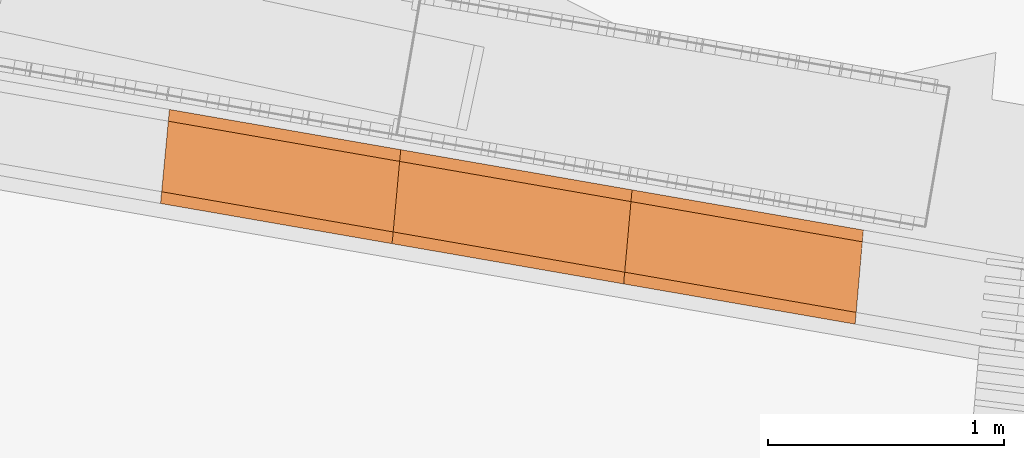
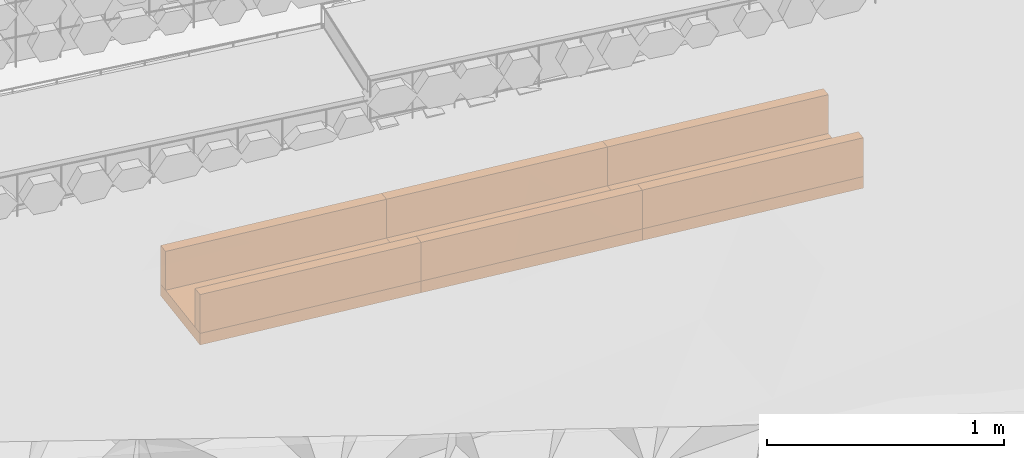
# Not in any storey, part 44 of 45: 9 proxies.
"""IFC4 model written with IfcOpenShell, lengths in metres."""

from ifc_helpers import new_model, si_unit, direction, frame, origin_with_axes, place, context, subcontext, project, spatial, polygons, material, element, save


model = new_model("IFC4")

# Units and contexts
model_context = context("Model", 3, precision=1e-05, world=origin_with_axes(), true_north=direction((0.0, 1.0)))
body_context = subcontext(model_context, "Body", "Model", "MODEL_VIEW")
ifc_project = project(units=[si_unit("VOLUMEUNIT", "CUBIC_METRE"), si_unit("LENGTHUNIT", "METRE"), si_unit("AREAUNIT", "SQUARE_METRE")], contexts=[model_context])

# Site
site_placement = place(None, origin_with_axes())
site = spatial("IfcSite", under=ifc_project, at=site_placement, Name="Lares · Rua das Mercês · artigo 4771")

# Proxies
ifc_material = material(Name="Caleiras · betão", Category="concrete")
proxy_1_placement = place(site_placement, frame((0.0, 0.0, 0.0), z_axis=(0.0, 0.0, 1.0), x_axis=(1.0, -1.03767253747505e-17, 0.0)))
element("IfcBuildingElementProxy", 1, at=proxy_1_placement, inside=site, material=ifc_material, Name="Acesso · canal lateral", ObjectType="Acesso · canal lateral", PredefinedType="USERDEFINED", context=body_context, shape_type="Tessellation", body=[
    polygons([(79.2974734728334, 6.31582085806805, 15.7690898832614), (79.3349189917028, 6.71406429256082, 15.7690898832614), (80.3149523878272, 6.5437610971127, 15.7986969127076), (80.2775068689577, 6.14551766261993, 15.7986969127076), (79.2974734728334, 6.31582085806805, 15.8290898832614), (79.3349189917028, 6.71406429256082, 15.8290898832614), (80.3149523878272, 6.5437610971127, 15.8586969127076), (80.2775068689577, 6.14551766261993, 15.8586969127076)], [[[4, 3, 2, 1]], [[5, 6, 7, 8]], [[1, 2, 6, 5]], [[2, 3, 7, 6]], [[3, 4, 8, 7]], [[4, 1, 5, 8]]]),
])
proxy_2_placement = place(site_placement, frame((0.0, 0.0, 0.0), z_axis=(0.0, 0.0, 1.0), x_axis=(1.0, -1.03767253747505e-17, 0.0)))
element("IfcBuildingElementProxy", 2, at=proxy_2_placement, inside=site, material=ifc_material, Name="Acesso · canal lateral", ObjectType="Acesso · canal lateral", PredefinedType="USERDEFINED", context=body_context, shape_type="Tessellation", body=[
    polygons([(79.2974734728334, 6.31582085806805, 15.8290898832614), (79.3021541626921, 6.36560128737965, 15.8290898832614), (80.2821875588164, 6.19529809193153, 15.8586969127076), (80.2775068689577, 6.14551766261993, 15.8586969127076), (79.2974734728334, 6.31582085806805, 16.0290898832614), (79.3021541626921, 6.36560128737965, 16.0290898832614), (80.2821875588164, 6.19529809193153, 16.0586969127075), (80.2775068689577, 6.14551766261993, 16.0586969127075)], [[[4, 3, 2, 1]], [[5, 6, 7, 8]], [[1, 2, 6, 5]], [[2, 3, 7, 6]], [[3, 4, 8, 7]], [[4, 1, 5, 8]]]),
])
proxy_3_placement = place(site_placement, frame((0.0, 0.0, 0.0), z_axis=(0.0, 0.0, 1.0), x_axis=(1.0, -1.03767253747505e-17, 0.0)))
element("IfcBuildingElementProxy", 3, at=proxy_3_placement, inside=site, material=ifc_material, Name="Acesso · canal lateral", ObjectType="Acesso · canal lateral", PredefinedType="USERDEFINED", context=body_context, shape_type="Tessellation", body=[
    polygons([(79.3302383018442, 6.66428386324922, 15.8290898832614), (79.3349189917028, 6.71406429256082, 15.8290898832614), (80.3149523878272, 6.5437610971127, 15.8586969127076), (80.3102716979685, 6.49398066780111, 15.8586969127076), (79.3302383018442, 6.66428386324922, 16.0290898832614), (79.3349189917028, 6.71406429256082, 16.0290898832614), (80.3149523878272, 6.5437610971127, 16.0586969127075), (80.3102716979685, 6.49398066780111, 16.0586969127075)], [[[4, 3, 2, 1]], [[5, 6, 7, 8]], [[1, 2, 6, 5]], [[2, 3, 7, 6]], [[3, 4, 8, 7]], [[4, 1, 5, 8]]]),
])
proxy_4_placement = place(site_placement, frame((0.0, 0.0, 0.0), z_axis=(0.0, 0.0, 1.0), x_axis=(1.0, -1.03767253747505e-17, 0.0)))
element("IfcBuildingElementProxy", 4, at=proxy_4_placement, inside=site, material=ifc_material, Name="Acesso · canal lateral", ObjectType="Acesso · canal lateral", PredefinedType="USERDEFINED", context=body_context, shape_type="Tessellation", body=[
    polygons([(80.2780501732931, 6.14546732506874, 15.7986969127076), (80.3144090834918, 6.5438114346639, 15.7986969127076), (81.2944163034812, 6.37350871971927, 15.8283039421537), (81.2580573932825, 5.97516461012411, 15.8283039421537), (80.2780501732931, 6.14546732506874, 15.8586969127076), (80.3144090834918, 6.5438114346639, 15.8586969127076), (81.2944163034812, 6.37350871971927, 15.8883039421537), (81.2580573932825, 5.97516461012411, 15.8883039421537)], [[[4, 3, 2, 1]], [[5, 6, 7, 8]], [[1, 2, 6, 5]], [[2, 3, 7, 6]], [[3, 4, 8, 7]], [[4, 1, 5, 8]]]),
])
proxy_5_placement = place(site_placement, frame((0.0, 0.0, 0.0), z_axis=(0.0, 0.0, 1.0), x_axis=(1.0, -1.03767253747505e-17, 0.0)))
element("IfcBuildingElementProxy", 5, at=proxy_5_placement, inside=site, material=ifc_material, Name="Acesso · canal lateral", ObjectType="Acesso · canal lateral", PredefinedType="USERDEFINED", context=body_context, shape_type="Tessellation", body=[
    polygons([(80.2780501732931, 6.14546732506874, 15.8586969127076), (80.2825950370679, 6.19526033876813, 15.8586969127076), (81.2626022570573, 6.0249576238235, 15.8883039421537), (81.2580573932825, 5.97516461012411, 15.8883039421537), (80.2780501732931, 6.14546732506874, 16.0586969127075), (80.2825950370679, 6.19526033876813, 16.0586969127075), (81.2626022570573, 6.0249576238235, 16.0883039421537), (81.2580573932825, 5.97516461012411, 16.0883039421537)], [[[4, 3, 2, 1]], [[5, 6, 7, 8]], [[1, 2, 6, 5]], [[2, 3, 7, 6]], [[3, 4, 8, 7]], [[4, 1, 5, 8]]]),
])
proxy_6_placement = place(site_placement, frame((0.0, 0.0, 0.0), z_axis=(0.0, 0.0, 1.0), x_axis=(1.0, -1.03767253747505e-17, 0.0)))
element("IfcBuildingElementProxy", 6, at=proxy_6_placement, inside=site, material=ifc_material, Name="Acesso · canal lateral", ObjectType="Acesso · canal lateral", PredefinedType="USERDEFINED", context=body_context, shape_type="Tessellation", body=[
    polygons([(80.309864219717, 6.4940184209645, 15.8586969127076), (80.3144090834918, 6.5438114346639, 15.8586969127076), (81.2944163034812, 6.37350871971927, 15.8883039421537), (81.2898714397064, 6.32371570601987, 15.8883039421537), (80.309864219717, 6.4940184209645, 16.0586969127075), (80.3144090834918, 6.5438114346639, 16.0586969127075), (81.2944163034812, 6.37350871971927, 16.0883039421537), (81.2898714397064, 6.32371570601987, 16.0883039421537)], [[[4, 3, 2, 1]], [[5, 6, 7, 8]], [[1, 2, 6, 5]], [[2, 3, 7, 6]], [[3, 4, 8, 7]], [[4, 1, 5, 8]]]),
])
proxy_7_placement = place(site_placement, frame((0.0, 0.0, 0.0), z_axis=(0.0, 0.0, 1.0), x_axis=(1.0, -1.03767253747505e-17, 0.0)))
element("IfcBuildingElementProxy", 7, at=proxy_7_placement, inside=site, material=ifc_material, Name="Acesso · canal lateral", ObjectType="Acesso · canal lateral", PredefinedType="USERDEFINED", context=body_context, shape_type="Tessellation", body=[
    polygons([(81.2586213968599, 5.97511393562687, 15.8283039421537), (81.2938522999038, 6.37355939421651, 15.8283039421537), (82.2738318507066, 6.20325707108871, 15.8586952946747), (82.2386009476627, 5.80481161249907, 15.8586952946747), (81.2586213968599, 5.97511393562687, 15.8883039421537), (81.2938522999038, 6.37355939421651, 15.8883039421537), (82.2738318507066, 6.20325707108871, 15.9186952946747), (82.2386009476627, 5.80481161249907, 15.9186952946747)], [[[4, 3, 2, 1]], [[5, 6, 7, 8]], [[1, 2, 6, 5]], [[2, 3, 7, 6]], [[3, 4, 8, 7]], [[4, 1, 5, 8]]]),
])
proxy_8_placement = place(site_placement, frame((0.0, 0.0, 0.0), z_axis=(0.0, 0.0, 1.0), x_axis=(1.0, -1.03767253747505e-17, 0.0)))
element("IfcBuildingElementProxy", 8, at=proxy_8_placement, inside=site, material=ifc_material, Name="Acesso · canal lateral", ObjectType="Acesso · canal lateral", PredefinedType="USERDEFINED", context=body_context, shape_type="Tessellation", body=[
    polygons([(81.2586213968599, 5.97511393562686, 15.8883039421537), (81.2630252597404, 6.02491961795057, 15.8883039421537), (82.2430048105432, 5.85461729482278, 15.9186952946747), (82.2386009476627, 5.80481161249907, 15.9186952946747), (81.2586213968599, 5.97511393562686, 16.0883039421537), (81.2630252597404, 6.02491961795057, 16.0883039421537), (82.2430048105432, 5.85461729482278, 16.1186952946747), (82.2386009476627, 5.80481161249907, 16.1186952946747)], [[[4, 3, 2, 1]], [[5, 6, 7, 8]], [[1, 2, 6, 5]], [[2, 3, 7, 6]], [[3, 4, 8, 7]], [[4, 1, 5, 8]]]),
])
proxy_9_placement = place(site_placement, frame((0.0, 0.0, 0.0), z_axis=(0.0, 0.0, 1.0), x_axis=(1.0, -1.03767253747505e-17, 0.0)))
element("IfcBuildingElementProxy", 9, at=proxy_9_placement, inside=site, material=ifc_material, Name="Acesso · canal lateral", ObjectType="Acesso · canal lateral", PredefinedType="USERDEFINED", context=body_context, shape_type="Tessellation", body=[
    polygons([(81.2894484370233, 6.3237537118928, 15.8883039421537), (81.2938522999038, 6.37355939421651, 15.8883039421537), (82.2738318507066, 6.20325707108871, 15.9186952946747), (82.2694279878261, 6.15345138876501, 15.9186952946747), (81.2894484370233, 6.3237537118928, 16.0883039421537), (81.2938522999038, 6.37355939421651, 16.0883039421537), (82.2738318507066, 6.20325707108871, 16.1186952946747), (82.2694279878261, 6.15345138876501, 16.1186952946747)], [[[4, 3, 2, 1]], [[5, 6, 7, 8]], [[1, 2, 6, 5]], [[2, 3, 7, 6]], [[3, 4, 8, 7]], [[4, 1, 5, 8]]]),
])

save(model, "model.ifc")
